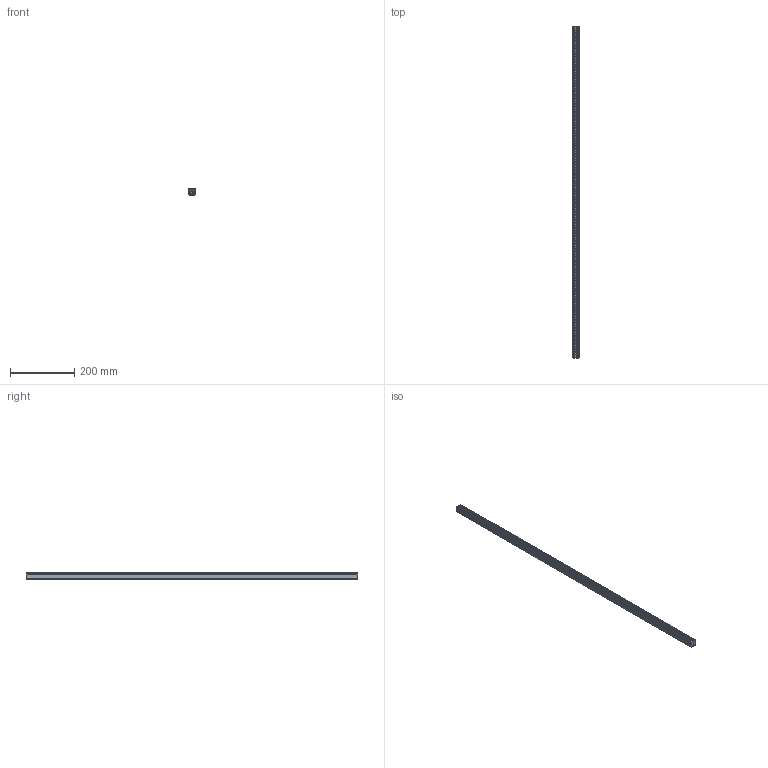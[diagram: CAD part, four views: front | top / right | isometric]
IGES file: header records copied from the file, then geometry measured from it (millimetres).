
Start section: SolidWorks IGES file using analytic representation for surfaces
Global section: file name: C:\Users\Administrator\Desktop\20200117170323322031.IGS; native system: SolidWorks 2019; preprocessor: SolidWorks 2019; author: Administrator; date: 200227.180739; units: millimetre
Bounding box: 20 x 1030 x 21 mm (x, y, z)
Surface area: 185485.9 mm2 (no closed solid volume)
Topology: 0 solids, 0 shells, 1401 faces, 16060 edges, 14832 vertices
Faces by surface type: bspline 1352, revolution 49
